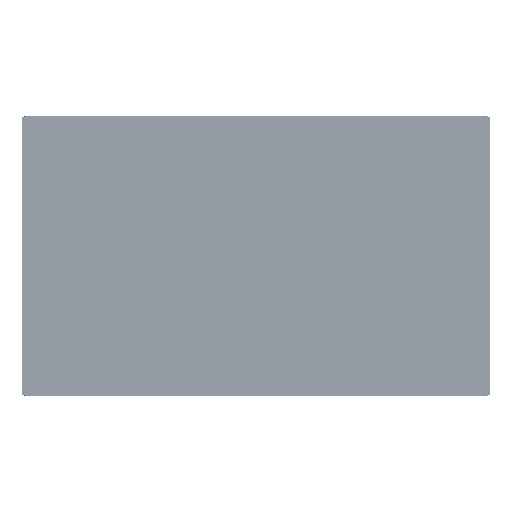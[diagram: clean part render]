
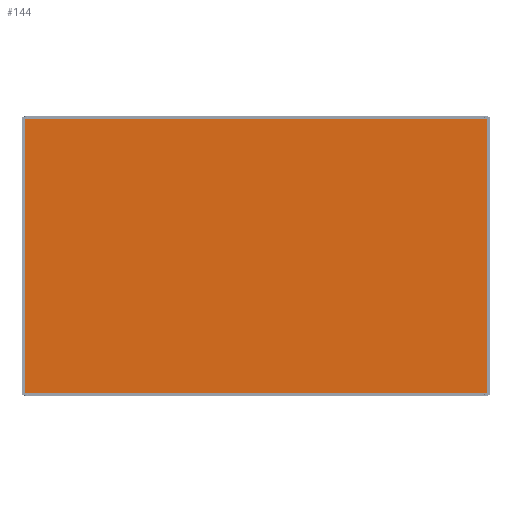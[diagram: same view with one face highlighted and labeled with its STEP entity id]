
A CAD part, top view. The second image highlights one B-rep face of the part: STEP entity #144.
In plain terms, the highlighted planar face has unit normal (0, 0, 1).
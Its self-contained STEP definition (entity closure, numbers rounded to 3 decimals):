
#1=DIRECTION('',(0.,1.,0.));
#2=VECTOR('',#1,441.27);
#3=CARTESIAN_POINT('',(-373.435,-220.635,0.));
#4=LINE('',#3,#2);
#5=DIRECTION('',(1.,0.,0.));
#6=VECTOR('',#5,746.87);
#7=CARTESIAN_POINT('',(-373.435,220.635,0.));
#8=LINE('',#7,#6);
#9=DIRECTION('',(0.,-1.,0.));
#10=VECTOR('',#9,441.27);
#11=CARTESIAN_POINT('',(373.435,220.635,0.));
#12=LINE('',#11,#10);
#13=DIRECTION('',(-1.,0.,0.));
#14=VECTOR('',#13,746.87);
#15=CARTESIAN_POINT('',(373.435,-220.635,0.));
#16=LINE('',#15,#14);
#97=CARTESIAN_POINT('',(-373.435,-220.635,0.));
#98=CARTESIAN_POINT('',(-373.435,220.635,0.));
#99=VERTEX_POINT('',#97);
#100=VERTEX_POINT('',#98);
#101=CARTESIAN_POINT('',(373.435,220.635,0.));
#102=VERTEX_POINT('',#101);
#103=CARTESIAN_POINT('',(373.435,-220.635,0.));
#104=VERTEX_POINT('',#103);
#129=CARTESIAN_POINT('',(0.,0.,0.));
#130=DIRECTION('',(0.,0.,1.));
#131=DIRECTION('',(1.,0.,0.));
#132=AXIS2_PLACEMENT_3D('',#129,#130,#131);
#133=PLANE('',#132);
#135=ORIENTED_EDGE('',*,*,#134,.T.);
#137=ORIENTED_EDGE('',*,*,#136,.T.);
#139=ORIENTED_EDGE('',*,*,#138,.T.);
#141=ORIENTED_EDGE('',*,*,#140,.T.);
#142=EDGE_LOOP('',(#135,#137,#139,#141));
#143=FACE_OUTER_BOUND('',#142,.F.);
#144=ADVANCED_FACE('',(#143),#133,.T.);
#134=EDGE_CURVE('',#99,#100,#4,.T.);
#136=EDGE_CURVE('',#100,#102,#8,.T.);
#138=EDGE_CURVE('',#102,#104,#12,.T.);
#140=EDGE_CURVE('',#104,#99,#16,.T.);
